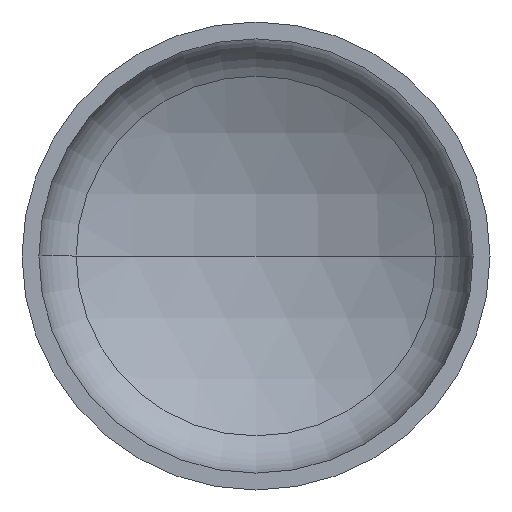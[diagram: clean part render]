
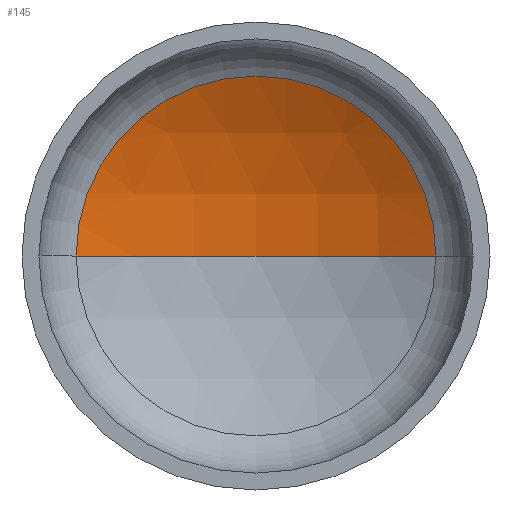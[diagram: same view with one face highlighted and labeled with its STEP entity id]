
A CAD part, front view. The second image highlights one B-rep face of the part: STEP entity #145.
In plain terms, the highlighted spherical face has radius 1200 mm.
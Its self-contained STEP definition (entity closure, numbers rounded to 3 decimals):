
#3 = CARTESIAN_POINT ( 'NONE',  ( 0., -730.731, 0. ) ) ;
#9 = CARTESIAN_POINT ( 'NONE',  ( 0., -730.731, 0. ) ) ;
#15 = AXIS2_PLACEMENT_3D ( 'NONE', #209, #211, #210 ) ;
#20 = EDGE_LOOP ( 'NONE', ( #83, #153, #55 ) ) ;
#23 = AXIS2_PLACEMENT_3D ( 'NONE', #9, #380, #247 ) ;
#24 = AXIS2_PLACEMENT_3D ( 'NONE', #3, #360, #31 ) ;
#26 = AXIS2_PLACEMENT_3D ( 'NONE', #198, #199, #267 ) ;
#31 = DIRECTION ( 'NONE',  ( -1., 0., 0. ) ) ;
#54 = CARTESIAN_POINT ( 'NONE',  ( 0., 469.269, 0. ) ) ;
#55 = ORIENTED_EDGE ( 'NONE', *, *, #72, .T. ) ;
#72 = EDGE_CURVE ( 'NONE', #301, #288, #112, .T. ) ;
#73 = EDGE_CURVE ( 'NONE', #80, #301, #331, .T. ) ;
#75 = EDGE_CURVE ( 'NONE', #80, #288, #391, .T. ) ;
#80 = VERTEX_POINT ( 'NONE', #54 ) ;
#83 = ORIENTED_EDGE ( 'NONE', *, *, #75, .F. ) ;
#112 = CIRCLE ( 'NONE', #26, 576.495 ) ;
#145 = ADVANCED_FACE ( 'NONE', ( #383 ), #202, .F. ) ;
#153 = ORIENTED_EDGE ( 'NONE', *, *, #73, .T. ) ;
#173 = CARTESIAN_POINT ( 'NONE',  ( 576.495, 321.72, 0. ) ) ;
#198 = CARTESIAN_POINT ( 'NONE',  ( 0., 321.72, 0. ) ) ;
#199 = DIRECTION ( 'NONE',  ( 0., -1., 0. ) ) ;
#202 = SPHERICAL_SURFACE ( 'NONE', #15, 1200. ) ;
#209 = CARTESIAN_POINT ( 'NONE',  ( 0., -730.731, 0. ) ) ;
#210 = DIRECTION ( 'NONE',  ( -1., 0., 0. ) ) ;
#211 = DIRECTION ( 'NONE',  ( 0., 0., -1. ) ) ;
#247 = DIRECTION ( 'NONE',  ( 1., 0., 0. ) ) ;
#267 = DIRECTION ( 'NONE',  ( 1., 0., 0. ) ) ;
#288 = VERTEX_POINT ( 'NONE', #395 ) ;
#301 = VERTEX_POINT ( 'NONE', #173 ) ;
#331 = CIRCLE ( 'NONE', #24, 1200. ) ;
#360 = DIRECTION ( 'NONE',  ( 0., 0., -1. ) ) ;
#380 = DIRECTION ( 'NONE',  ( 0., 0., 1. ) ) ;
#383 = FACE_OUTER_BOUND ( 'NONE', #20, .T. ) ;
#391 = CIRCLE ( 'NONE', #23, 1200. ) ;
#395 = CARTESIAN_POINT ( 'NONE',  ( -576.495, 321.72, 0. ) ) ;
